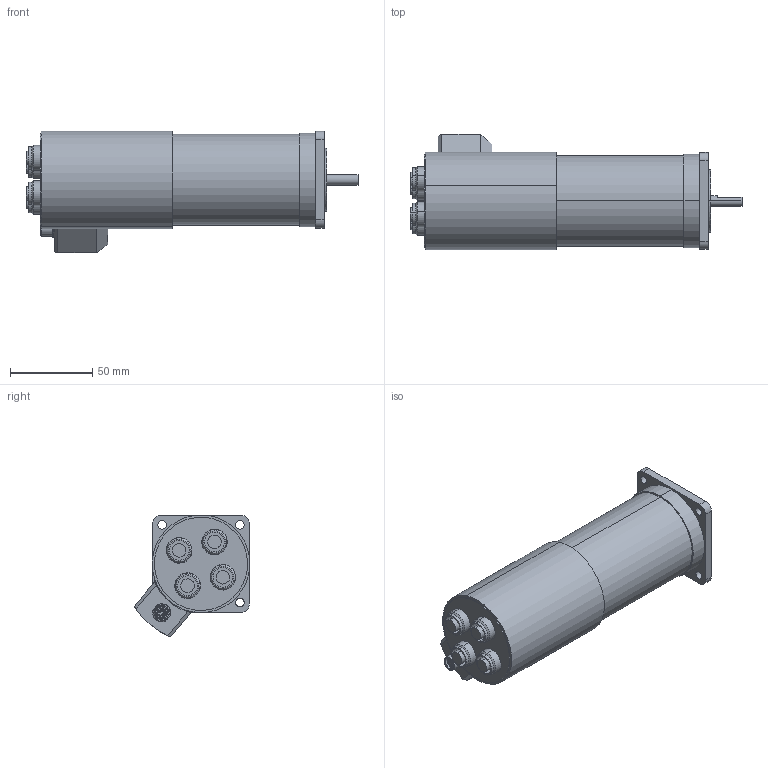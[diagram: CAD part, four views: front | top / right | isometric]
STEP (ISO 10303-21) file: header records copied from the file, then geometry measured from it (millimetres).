
FILE_DESCRIPTION (( 'STEP AP214' ), '1' );
FILE_NAME ('MAC141 w STO R1.STEP', '2022-05-10T15:10:46', ( '' ), ( '' ), 'SwSTEP 2.0', 'SolidWorks 2020', '' );
FILE_SCHEMA (( 'AUTOMOTIVE_DESIGN' ));
Length unit declared in the file: millimetre
Products named in the file (1): MAC141 w STO R1
Bounding box: 201.27 x 70.1 x 73.95 mm (x, y, z)
Volume: 467704.3 mm3; surface area: 46340.7 mm2
Topology: 1 solids, 5 shells, 289 faces, 640 edges, 399 vertices
Faces by surface type: cylinder 123, plane 98, cone 27, bspline 23, torus 16, sphere 2
Entity records: 17189 total; most frequent: CARTESIAN_POINT 7678, DIRECTION 1331, ORIENTED_EDGE 1268, EDGE_CURVE 634, AXIS2_PLACEMENT_3D 542, VERTEX_POINT 399, EDGE_LOOP 347, UNCERTAINTY_MEASURE_WITH_UNIT 292
